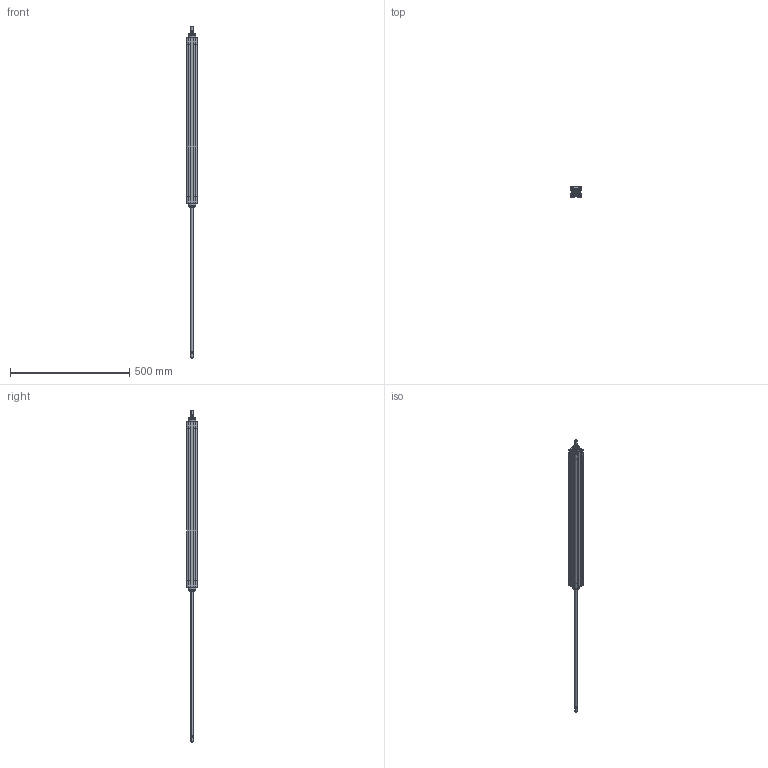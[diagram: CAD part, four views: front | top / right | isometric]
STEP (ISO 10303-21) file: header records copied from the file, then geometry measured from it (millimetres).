
FILE_DESCRIPTION((''),'2;1');
FILE_NAME('F:\Lib-3d\1380\CIL\1380_32_0600_02.stp','2004-01-07T16:01:32',('maffial1'),(''),'Autodesk Inventor 8','Autodesk Inventor 8','');
FILE_SCHEMA(('AUTOMOTIVE_DESIGN { 1 0 10303 214 1 1 1 1 }'));
Length unit declared in the file: millimetre
Products named in the file (3): 1380_32_0600_02; CPP04_32_600; CPP03_32_600
Assembly tree (2 placements, depth 2):
  1380_32_0600_02
    CPP04_32_600
    CPP03_32_600
Bounding box: 46 x 46 x 1390 mm (x, y, z)
Volume: 1380752.5 mm3; surface area: 245583.1 mm2
Topology: 2 solids, 2 shells, 236 faces, 564 edges, 356 vertices
Faces by surface type: plane 80, cylinder 66, bspline 62, cone 24, torus 4
Entity records: 7513 total; most frequent: CARTESIAN_POINT 2031, DIRECTION 1154, ORIENTED_EDGE 1096, EDGE_CURVE 548, AXIS2_PLACEMENT_3D 427, VERTEX_POINT 356, VECTOR 300, LINE 300
